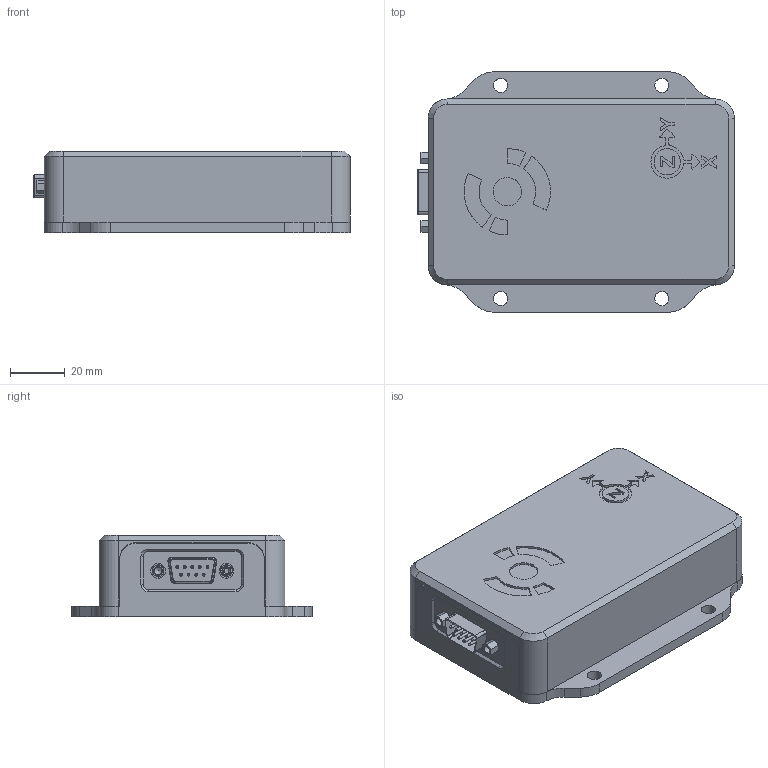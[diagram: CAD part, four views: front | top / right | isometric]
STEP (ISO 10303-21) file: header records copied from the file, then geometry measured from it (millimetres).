
FILE_DESCRIPTION(/* description */ (''),/* implementation_level */ '2;1');
FILE_NAME(/* name */ 'Magnetometer_Dimensions_STEP.step',/* time_stamp */ '2026-02-05T15:32:50+01:00',/* author */ (''),/* organization */ (''),/* preprocessor_version */ 'ST-DEVELOPER v20.1',/* originating_system */ 'Autodesk Translation Framework v14.24.0.0',/* authorisation */ '');
FILE_SCHEMA (('AUTOMOTIVE_DESIGN { 1 0 10303 214 3 1 1 }'));
Length unit declared in the file: millimetre
Products named in the file (1): Magnetometer_Dimensions_STEP
Bounding box: 115.81 x 88 x 30 mm (x, y, z)
Volume: 209754.3 mm3; surface area: 77514.7 mm2
Topology: 10 solids, 10 shells, 1385 faces, 3645 edges, 2359 vertices
Faces by surface type: plane 616, cylinder 456, bspline 233, cone 62, torus 18
Full cylindrical faces by diameter (mm): 0.53 x14, 1.02 x9, 2.845 x4, 3.1 x2, 3.302 x4, 3.908 x4, 4 x10, 4.2 x4, 5.2 x4, 5.4 x2, 7 x4, 8.4 x4, 9.6 x1
Entity records: 48453 total; most frequent: CARTESIAN_POINT 14005, ORIENTED_EDGE 7286, DIRECTION 6747, EDGE_CURVE 3643, VERTEX_POINT 2359, AXIS2_PLACEMENT_3D 2312, LINE 2123, VECTOR 2123
